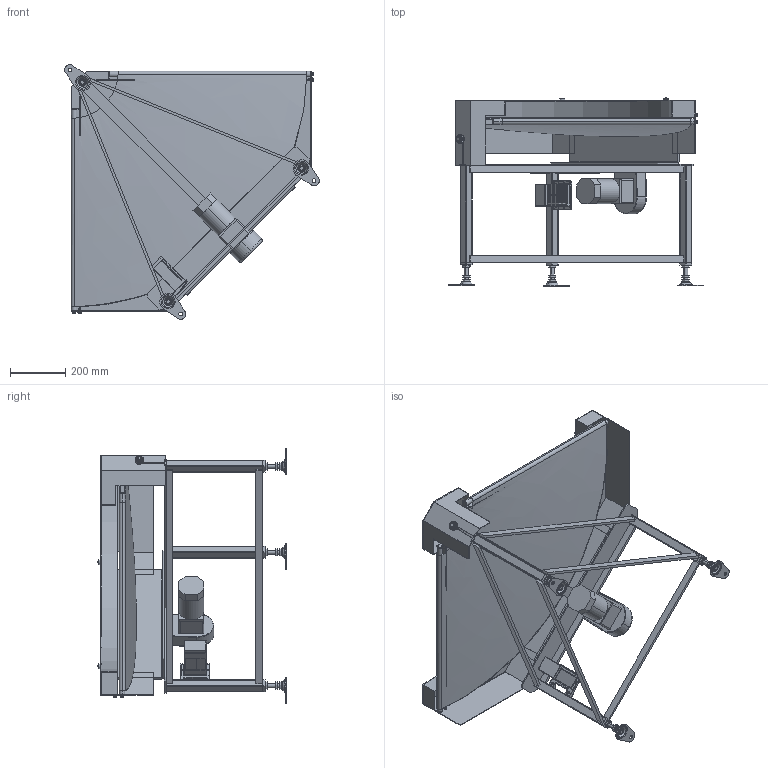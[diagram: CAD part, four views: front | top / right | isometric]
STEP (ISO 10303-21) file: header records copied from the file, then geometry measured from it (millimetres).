
FILE_DESCRIPTION (( 'STEP AP214' ), '1' );
FILE_NAME ('SWD-MBC3-UD-600-R_B.STEP', '2021-08-20T08:49:00', ( '' ), ( '' ), 'SwSTEP 2.0', 'SolidWorks 2017', '' );
FILE_SCHEMA (( 'AUTOMOTIVE_DESIGN' ));
Length unit declared in the file: millimetre
Products named in the file (24): AJ-020_呼び100; M6x10-GBC; SWD-GBC90-僾乕儕+儀儖僩-600-R; SWD-GBC-S-330-5-外カバー-600; モータ-MBC3-UD; SWD-GBC-S-430-10-脚-600; スピコンインバータ_R; SWD-MBC3-UD-尨摦儀乕僗+僽儔働僢僩-500,600; VFD001L21A; KIF-30-M8; hexagon thin nut double chamfered_ab_jis_JIS B 1181 Hexagon thin nut - double chamfered A M16 --N; 購入品-寸切りボルトM16x1000_L110; SWD-MBC3-UD-600-R_B; AJ-020; CB-S-010; SWD-GBC-S-220-2-内カバー; 皿ネジ M6x10; 脱落防止ネジ-M5x12; 084 歯付き座金 さら型(C) JIS B 1255p2 三価クロメート_JIS B 1255 C 6 三価クロメート; 084 ばね座金 JIS B1251 一般用(2号)_三価白_JIS B 1251 No.2 6 三価白; 084 平座金 JIS B 1256 並形_三価白_JIS B 1256 平座金(並)  6 三価白; 084 六角ﾎﾞﾙﾄ_三価クロメート_084六角ﾎﾞﾙﾄ(三価クロメート) M8 x 35; 084 六角ﾎﾞﾙﾄ_三価クロメート_084六角ﾎﾞﾙﾄ(三価クロメート) M6 x 12
Assembly tree (33 placements, depth 3):
  SWD-MBC3-UD-600-R_B
    SWD-GBC-S-220-2-内カバー
    SWD-GBC90-僾乕儕+儀儖僩-600-R
    SWD-GBC-S-330-5-外カバー-600
    SWD-GBC-S-430-10-脚-600
    AJ-020_呼び100  x3
      AJ-020
      購入品-寸切りボルトM16x1000_L110
      hexagon thin nut double chamfered_ab_jis_JIS B 1181 Hexagon thin nut - double chamfered A M16 --N
    KIF-30-M8
    SWD-MBC3-UD-尨摦儀乕僗+僽儔働僢僩-500,600
    084 六角ﾎﾞﾙﾄ_三価クロメート_084六角ﾎﾞﾙﾄ(三価クロメート) M8 x 35
    M6x10-GBC  x4
      084 六角ﾎﾞﾙﾄ_三価クロメート_084六角ﾎﾞﾙﾄ(三価クロメート) M6 x 12
      084 ばね座金 JIS B1251 一般用(2号)_三価白_JIS B 1251 No.2 6 三価白
      084 平座金 JIS B 1256 並形_三価白_JIS B 1256 平座金(並)  6 三価白
    脱落防止ネジ-M5x12  x2
    スピコンインバータ_R
      VFD001L21A
      CB-S-010
    モータ-MBC3-UD
    皿ネジ M6x10  x2
      皿ネジ M6x10
      084 歯付き座金 さら型(C) JIS B 1255p2 三価クロメート_JIS B 1255 C 6 三価クロメート
Bounding box: 917.51 x 677.92 x 917.51 mm (x, y, z)
Volume: 8790012.8 mm3; surface area: 5970922.6 mm2
Topology: 63 solids, 63 shells, 2263 faces, 5600 edges, 3498 vertices
Faces by surface type: plane 948, cylinder 846, cone 332, bspline 69, torus 58, sphere 10
Entity records: 52347 total; most frequent: CARTESIAN_POINT 15627, DIRECTION 7528, ORIENTED_EDGE 7378, EDGE_CURVE 3689, AXIS2_PLACEMENT_3D 2737, VERTEX_POINT 2331, VECTOR 2054, LINE 2054
